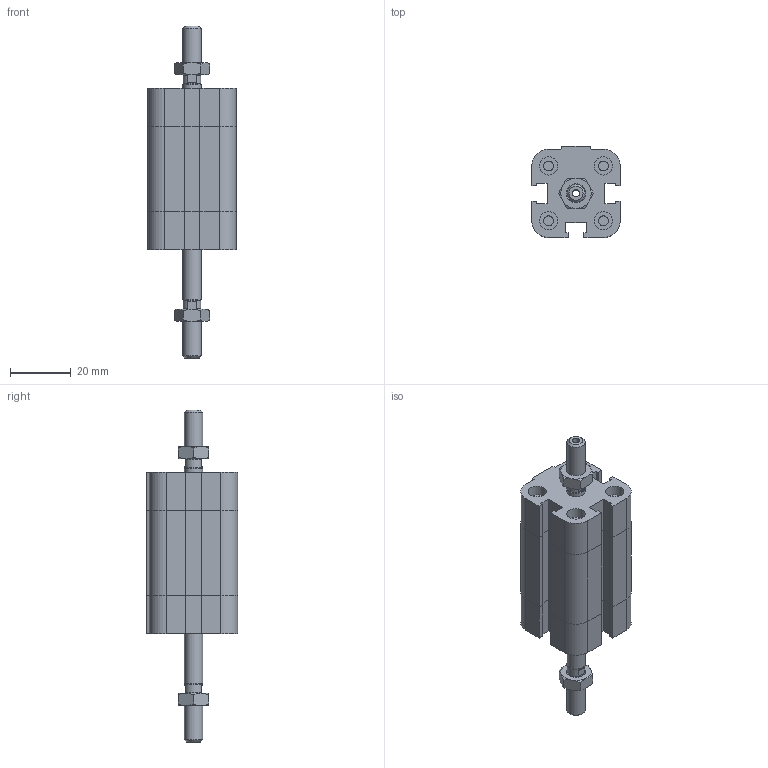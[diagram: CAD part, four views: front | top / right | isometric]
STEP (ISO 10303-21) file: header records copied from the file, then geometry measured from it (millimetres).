
FILE_DESCRIPTION((''),'2;1');
FILE_NAME('I:\Area Tecnica\Disegni\VARIE-3D\Componenti\EUROPE\15##_###_####_05_#\1581_12_0015_05_1.iam.stp','2009-04-20T14:58:58',(''),(''),'Autodesk Inventor 2009','Autodesk Inventor 2009','');
FILE_SCHEMA(('AUTOMOTIVE_DESIGN { 1 0 10303 214 1 1 1 1 }'));
Length unit declared in the file: millimetre
Products named in the file (4): 1581_12_0015_05_1; 1581_12_0015_03_1_C; 1561_12_0015_05_1_S; DBM6
Assembly tree (4 placements, depth 2):
  1581_12_0015_05_1
    1581_12_0015_03_1_C
    1561_12_0015_05_1_S
    DBM6  x2
Bounding box: 29 x 30 x 109 mm (x, y, z)
Volume: 38348 mm3; surface area: 15676.9 mm2
Topology: 4 solids, 4 shells, 225 faces, 494 edges, 295 vertices
Faces by surface type: plane 131, cone 35, bspline 34, cylinder 25
Full cylindrical faces by diameter (mm): 3.242 x4, 5 x1, 5.8 x2, 6 x6
Entity records: 5550 total; most frequent: CARTESIAN_POINT 1254, DIRECTION 818, ORIENTED_EDGE 788, EDGE_CURVE 394, AXIS2_PLACEMENT_3D 278, EDGE_LOOP 262, VECTOR 262, LINE 262
